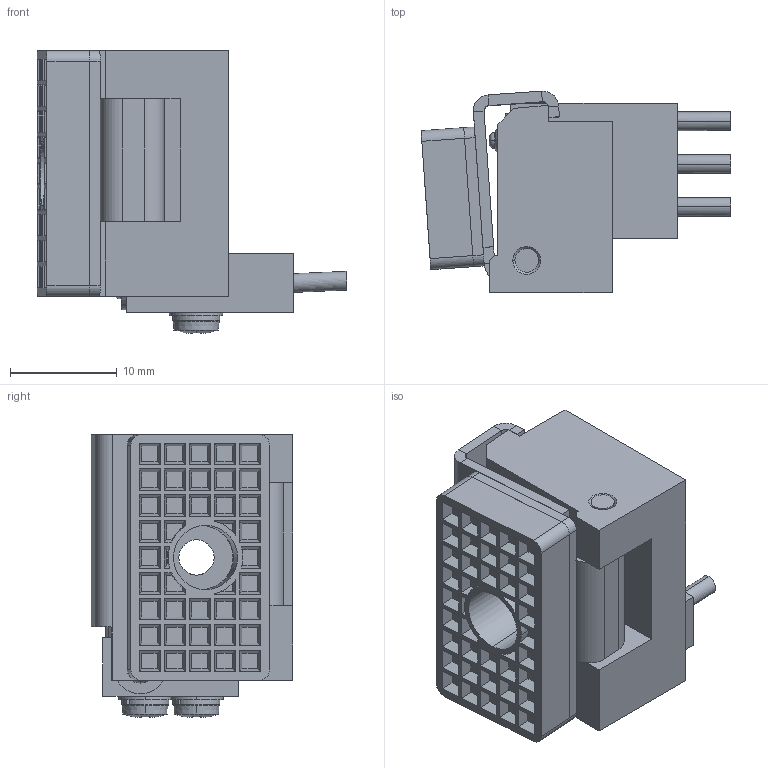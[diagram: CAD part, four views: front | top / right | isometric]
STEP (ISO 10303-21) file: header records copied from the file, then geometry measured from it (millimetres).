
FILE_DESCRIPTION (( 'STEP AP203' ), '1' );
FILE_NAME ('110654.STEP', '2021-10-22T04:11:12', ( '' ), ( '' ), 'SwSTEP 2.0', 'SolidWorks 2018', '' );
FILE_SCHEMA (( 'CONFIG_CONTROL_DESIGN' ));
Length unit declared in the file: millimetre
Products named in the file (1): 110654
Bounding box: 28.98 x 18.84 x 26.47 mm (x, y, z)
Surface area: 4864.6 mm2 (no closed solid volume)
Topology: 0 solids, 11 shells, 442 faces, 1177 edges, 786 vertices
Faces by surface type: plane 342, cylinder 47, bspline 31, cone 14, torus 4, sphere 4
Entity records: 15231 total; most frequent: CARTESIAN_POINT 4317, ORIENTED_EDGE 2219, DIRECTION 2097, EDGE_CURVE 1177, LINE 869, VECTOR 869, VERTEX_POINT 786, AXIS2_PLACEMENT_3D 614
